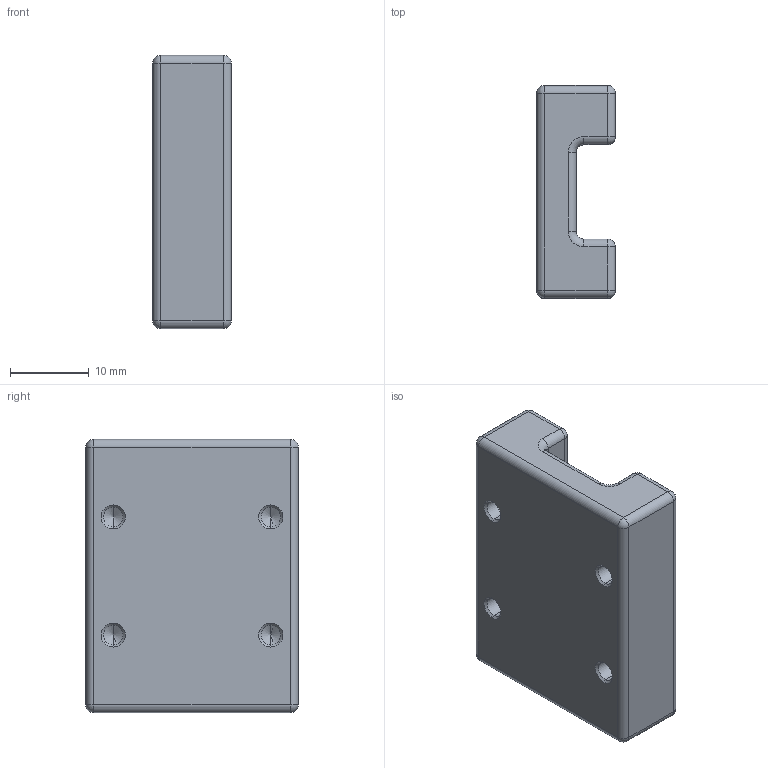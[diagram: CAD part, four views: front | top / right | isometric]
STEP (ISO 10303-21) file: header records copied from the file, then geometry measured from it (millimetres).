
FILE_DESCRIPTION (( 'STEP AP203' ), '1' );
FILE_NAME ('MGN 12 C guiding rail support.STEP', '2025-10-13T10:22:00', ( '' ), ( '' ), 'SwSTEP 2.0', 'SolidWorks 2023', '' );
FILE_SCHEMA (( 'CONFIG_CONTROL_DESIGN' ));
Length unit declared in the file: millimetre
Products named in the file (1): MGN 12 C guiding rail support
Bounding box: 10 x 27 x 34.7 mm (x, y, z)
Volume: 7133.6 mm3; surface area: 3276 mm2
Topology: 1 solids, 1 shells, 74 faces, 168 edges, 80 vertices
Faces by surface type: cylinder 32, cone 16, sphere 12, plane 10, torus 4
Entity records: 1957 total; most frequent: DIRECTION 374, CARTESIAN_POINT 303, ORIENTED_EDGE 296, AXIS2_PLACEMENT_3D 151, EDGE_CURVE 148, VERTEX_POINT 80, EDGE_LOOP 78, CIRCLE 76
